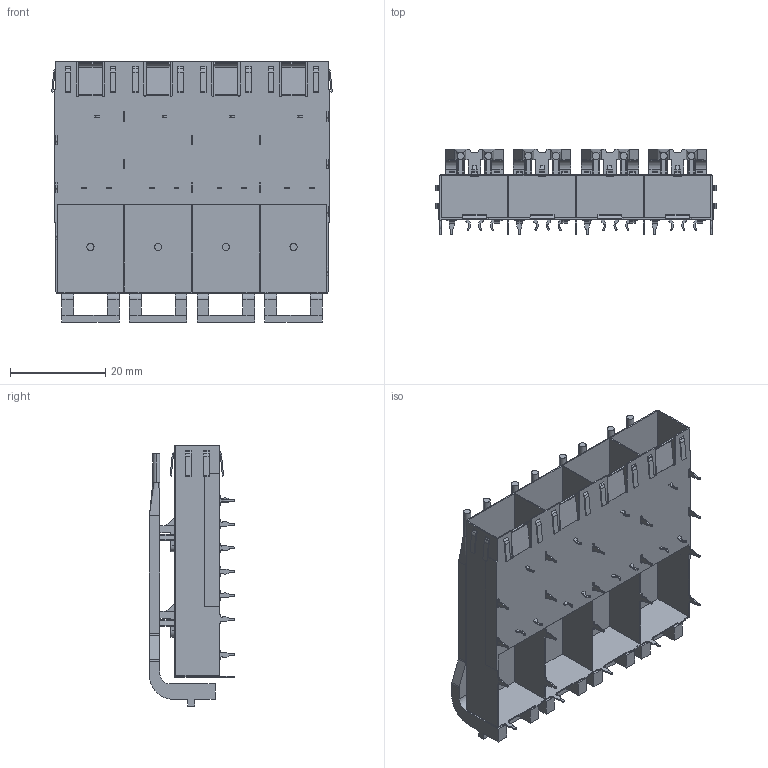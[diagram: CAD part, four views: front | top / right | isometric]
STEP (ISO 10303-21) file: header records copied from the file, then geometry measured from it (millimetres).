
FILE_DESCRIPTION(/* description */ (''),/* implementation_level */ '2;1');
FILE_NAME(/* name */ 'SFP 1X4 压接脚 有月牙 导光柱13.57.stp',/* time_stamp */ '2026-06-17T10:23:03+08:00',/* author */ (''),/* organization */ (''),/* preprocessor_version */ 'ST-DEVELOPER v16.7',/* originating_system */ 'SIEMENS PLM Software NX 1847',/* authorisation */ '');
FILE_SCHEMA (('AUTOMOTIVE_DESIGN { 1 0 10303 214 3 1 1 1 }'));
Length unit declared in the file: millimetre
Products named in the file (1): Admi28840297r406
Bounding box: 59.05 x 17.92 x 54.82 mm (x, y, z)
Volume: 4863.2 mm3; surface area: 20412 mm2
Topology: 1 solids, 1 shells, 1742 faces, 4848 edges, 3152 vertices
Faces by surface type: plane 918, cylinder 726, torus 64, bspline 32, sphere 2
Entity records: 57013 total; most frequent: CARTESIAN_POINT 11046, DIRECTION 9722, ORIENTED_EDGE 9692, EDGE_CURVE 4846, LINE 3298, VECTOR 3298, AXIS2_PLACEMENT_3D 3212, VERTEX_POINT 3152
